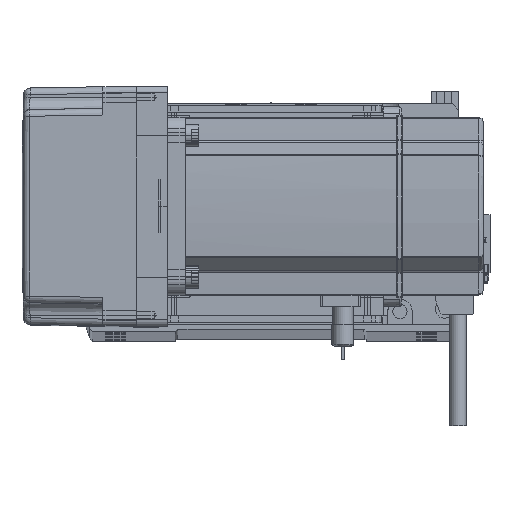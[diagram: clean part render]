
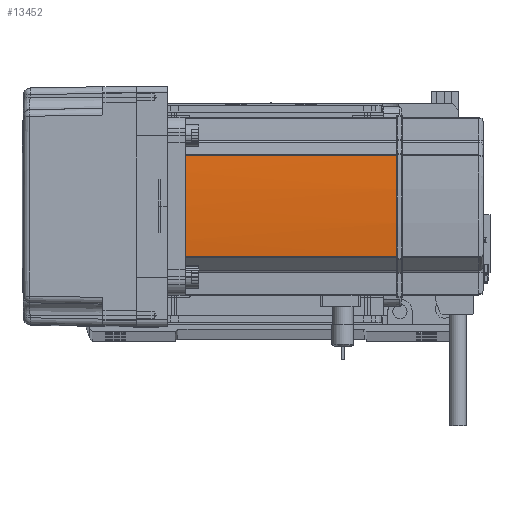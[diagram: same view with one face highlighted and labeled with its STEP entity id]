
A CAD part, top view. The second image highlights one B-rep face of the part: STEP entity #13452.
In plain terms, the highlighted cylindrical face has radius 270 mm (diameter 540 mm), a partial arc.
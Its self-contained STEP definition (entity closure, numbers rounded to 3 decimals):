
#1319 = CARTESIAN_POINT ( 'NONE',  ( 40., -0.127, 134. ) ) ;
#1867 = DIRECTION ( 'NONE',  ( 0., 0., -1. ) ) ;
#3615 = EDGE_CURVE ( 'NONE', #19724, #36643, #20819, .T. ) ;
#5137 = ORIENTED_EDGE ( 'NONE', *, *, #40869, .T. ) ;
#5418 = EDGE_CURVE ( 'NONE', #46491, #36643, #34373, .T. ) ;
#6939 = LINE ( 'NONE', #54160, #23059 ) ;
#8721 = DIRECTION ( 'NONE',  ( 0., 0., -1. ) ) ;
#10542 = CARTESIAN_POINT ( 'NONE',  ( 40., 0.042, 134. ) ) ;
#10923 = CIRCLE ( 'NONE', #11273, 270. ) ;
#11273 = AXIS2_PLACEMENT_3D ( 'NONE', #38096, #8721, #43032 ) ;
#11829 = EDGE_CURVE ( 'NONE', #44398, #37683, #48794, .T. ) ;
#13452 = ADVANCED_FACE ( 'NONE', ( #58283 ), #44457, .T. ) ;
#15074 = DIRECTION ( 'NONE',  ( 0., 0., -1. ) ) ;
#15708 = CARTESIAN_POINT ( 'NONE',  ( 40., -0.042, 134. ) ) ;
#19724 = VERTEX_POINT ( 'NONE', #59350 ) ;
#20008 = EDGE_CURVE ( 'NONE', #44398, #19724, #10923, .T. ) ;
#20655 = CARTESIAN_POINT ( 'NONE',  ( 40., 0.127, 134. ) ) ;
#20819 = LINE ( 'NONE', #60227, #58338 ) ;
#22097 = ORIENTED_EDGE ( 'NONE', *, *, #5418, .F. ) ;
#23059 = VECTOR ( 'NONE', #40261, 1000. ) ;
#24719 = ORIENTED_EDGE ( 'NONE', *, *, #3615, .T. ) ;
#24843 = CARTESIAN_POINT ( 'NONE',  ( 40., -0.127, 134. ) ) ;
#25031 = CARTESIAN_POINT ( 'NONE',  ( 39.042, 22.724, 134. ) ) ;
#30858 = DIRECTION ( 'NONE',  ( 0., 0., -1. ) ) ;
#34373 = CIRCLE ( 'NONE', #46346, 270. ) ;
#34560 = ORIENTED_EDGE ( 'NONE', *, *, #20008, .T. ) ;
#34784 = CARTESIAN_POINT ( 'NONE',  ( -230., 0., 134. ) ) ;
#35658 = DIRECTION ( 'NONE',  ( 0., 0., -1. ) ) ;
#35959 = CARTESIAN_POINT ( 'NONE',  ( 39.042, 22.724, 39. ) ) ;
#36157 = DIRECTION ( 'NONE',  ( -1., 0., 0. ) ) ;
#36643 = VERTEX_POINT ( 'NONE', #60008 ) ;
#36911 = AXIS2_PLACEMENT_3D ( 'NONE', #34784, #15074, #54051 ) ;
#37625 = AXIS2_PLACEMENT_3D ( 'NONE', #45792, #1867, #36157 ) ;
#37683 = VERTEX_POINT ( 'NONE', #53590 ) ;
#38096 = CARTESIAN_POINT ( 'NONE',  ( -230., 0., 134. ) ) ;
#40261 = DIRECTION ( 'NONE',  ( 0., 0., 1. ) ) ;
#40869 = EDGE_CURVE ( 'NONE', #50395, #37683, #63549, .T. ) ;
#43032 = DIRECTION ( 'NONE',  ( -1., 0., 0. ) ) ;
#44398 = VERTEX_POINT ( 'NONE', #24843 ) ;
#44457 = CYLINDRICAL_SURFACE ( 'NONE', #37625, 270. ) ;
#45711 = CARTESIAN_POINT ( 'NONE',  ( -230., 0., 39. ) ) ;
#45792 = CARTESIAN_POINT ( 'NONE',  ( -230., 0., 58. ) ) ;
#46346 = AXIS2_PLACEMENT_3D ( 'NONE', #45711, #35658, #50628 ) ;
#46491 = VERTEX_POINT ( 'NONE', #35959 ) ;
#48794 = B_SPLINE_CURVE_WITH_KNOTS ( 'NONE', 3,
 ( #1319, #15708, #10542, #20655 ),
 .UNSPECIFIED., .F., .F.,
 ( 4, 4 ),
 ( 0., 1. ),
 .UNSPECIFIED. ) ;
#48986 = EDGE_CURVE ( 'NONE', #46491, #50395, #6939, .T. ) ;
#50395 = VERTEX_POINT ( 'NONE', #25031 ) ;
#50628 = DIRECTION ( 'NONE',  ( -1., 0., 0. ) ) ;
#51006 = ORIENTED_EDGE ( 'NONE', *, *, #11829, .F. ) ;
#53590 = CARTESIAN_POINT ( 'NONE',  ( 40., 0.127, 134. ) ) ;
#54051 = DIRECTION ( 'NONE',  ( -1., 0., 0. ) ) ;
#54160 = CARTESIAN_POINT ( 'NONE',  ( 39.042, 22.724, 58. ) ) ;
#54921 = EDGE_LOOP ( 'NONE', ( #24719, #22097, #58823, #5137, #51006, #34560 ) ) ;
#58283 = FACE_OUTER_BOUND ( 'NONE', #54921, .T. ) ;
#58338 = VECTOR ( 'NONE', #30858, 1000. ) ;
#58823 = ORIENTED_EDGE ( 'NONE', *, *, #48986, .T. ) ;
#59350 = CARTESIAN_POINT ( 'NONE',  ( 39.042, -22.724, 134. ) ) ;
#60008 = CARTESIAN_POINT ( 'NONE',  ( 39.042, -22.724, 39. ) ) ;
#60227 = CARTESIAN_POINT ( 'NONE',  ( 39.042, -22.724, 58. ) ) ;
#63549 = CIRCLE ( 'NONE', #36911, 270. ) ;
